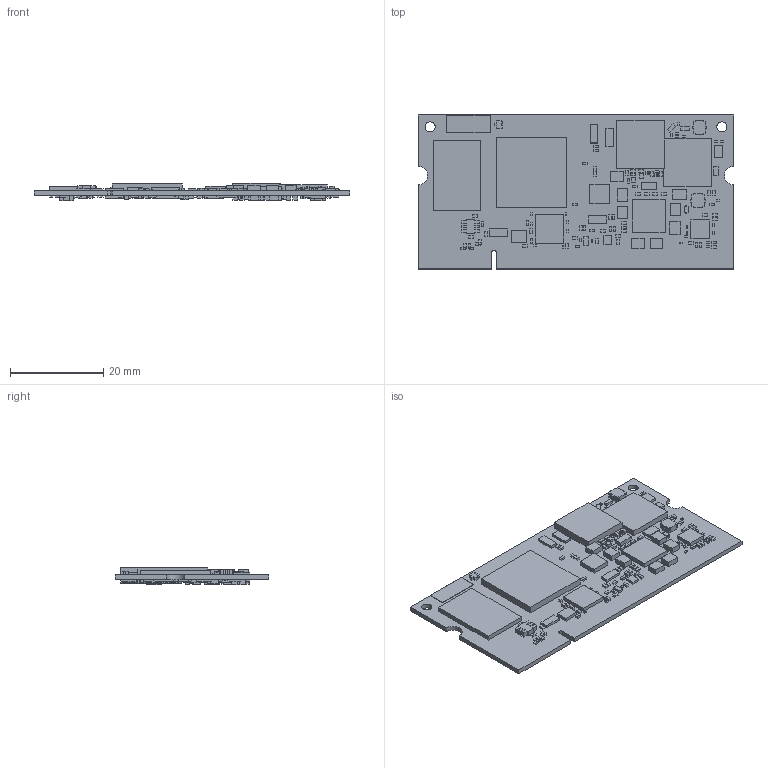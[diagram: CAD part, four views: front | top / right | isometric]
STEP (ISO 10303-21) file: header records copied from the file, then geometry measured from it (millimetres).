
FILE_DESCRIPTION (( 'STEP AP203' ), '1' );
FILE_NAME ('VPC0411-FINAL.STEP', '2022-03-14T12:38:21', ( 'Äãñëí' ), ( '' ), 'SwSTEP 2.0', 'SolidWorks 2022', '' );
FILE_SCHEMA (( 'CONFIG_CONTROL_DESIGN' ));
Length unit declared in the file: millimetre
Products named in the file (1): VPC0411-FINAL
Bounding box: 67.6 x 32.99 x 3.71 mm (x, y, z)
Volume: 3507.1 mm3; surface area: 8346.2 mm2
Topology: 370 solids, 370 shells, 2358 faces, 4854 edges, 3236 vertices
Faces by surface type: plane 2349, cylinder 9
Entity records: 60163 total; most frequent: CARTESIAN_POINT 10449, ORIENTED_EDGE 9708, DIRECTION 9590, EDGE_CURVE 4854, LINE 4836, VECTOR 4836, VERTEX_POINT 3236, AXIS2_PLACEMENT_3D 2377
